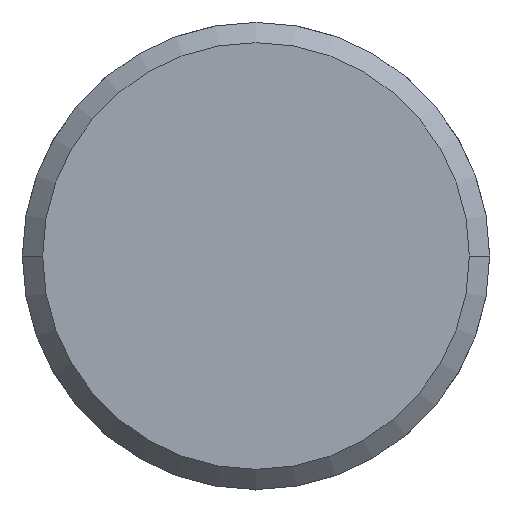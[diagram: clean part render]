
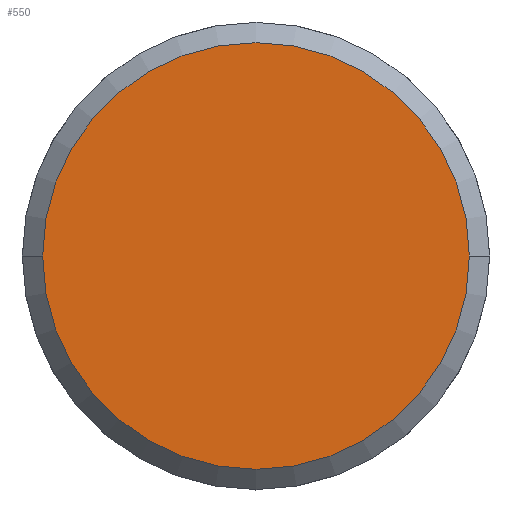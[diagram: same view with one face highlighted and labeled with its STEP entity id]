
A CAD part, left-side view. The second image highlights one B-rep face of the part: STEP entity #550.
In plain terms, the highlighted planar face has unit normal (-1, 0, 0).
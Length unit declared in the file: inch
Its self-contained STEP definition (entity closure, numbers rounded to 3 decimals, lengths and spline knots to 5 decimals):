
#11 = DIRECTION ( 'NONE',  ( 0., 1., 0. ) ) ;
#14 = DIRECTION ( 'NONE',  ( -1., 0., 0. ) ) ;
#19 = CARTESIAN_POINT ( 'NONE',  ( -6.72031, -0.21179, 0. ) ) ;
#60 = DIRECTION ( 'NONE',  ( -1., 0., 0. ) ) ;
#61 = DIRECTION ( 'NONE',  ( 0., 1., 0. ) ) ;
#133 = CARTESIAN_POINT ( 'NONE',  ( -6.72031, -0.21179, 0. ) ) ;
#265 = ORIENTED_EDGE ( 'NONE', *, *, #829, .T. ) ;
#291 = EDGE_LOOP ( 'NONE', ( #353, #265 ) ) ;
#353 = ORIENTED_EDGE ( 'NONE', *, *, #848, .T. ) ;
#529 = AXIS2_PLACEMENT_3D ( 'NONE', #133, #60, #61 ) ;
#532 = AXIS2_PLACEMENT_3D ( 'NONE', #19, #14, #11 ) ;
#550 = ADVANCED_FACE ( 'NONE', ( #1110 ), #757, .T. ) ;
#757 = PLANE ( 'NONE',  #1374 ) ;
#772 = CARTESIAN_POINT ( 'NONE',  ( -6.72031, -0.87769, -0.6659 ) ) ;
#773 = DIRECTION ( 'NONE',  ( -1., 0., 0. ) ) ;
#774 = DIRECTION ( 'NONE',  ( 0., 0., 1. ) ) ;
#829 = EDGE_CURVE ( 'NONE', #1157, #1191, #1041, .T. ) ;
#848 = EDGE_CURVE ( 'NONE', #1191, #1157, #1012, .T. ) ;
#1012 = CIRCLE ( 'NONE', #532, 0.658 ) ;
#1041 = CIRCLE ( 'NONE', #529, 0.658 ) ;
#1110 = FACE_OUTER_BOUND ( 'NONE', #291, .T. ) ;
#1157 = VERTEX_POINT ( 'NONE', #1297 ) ;
#1191 = VERTEX_POINT ( 'NONE', #1323 ) ;
#1297 = CARTESIAN_POINT ( 'NONE',  ( -6.72031, -0.86979, 0. ) ) ;
#1323 = CARTESIAN_POINT ( 'NONE',  ( -6.72031, 0.44621, 0. ) ) ;
#1374 = AXIS2_PLACEMENT_3D ( 'NONE', #772, #773, #774 ) ;
